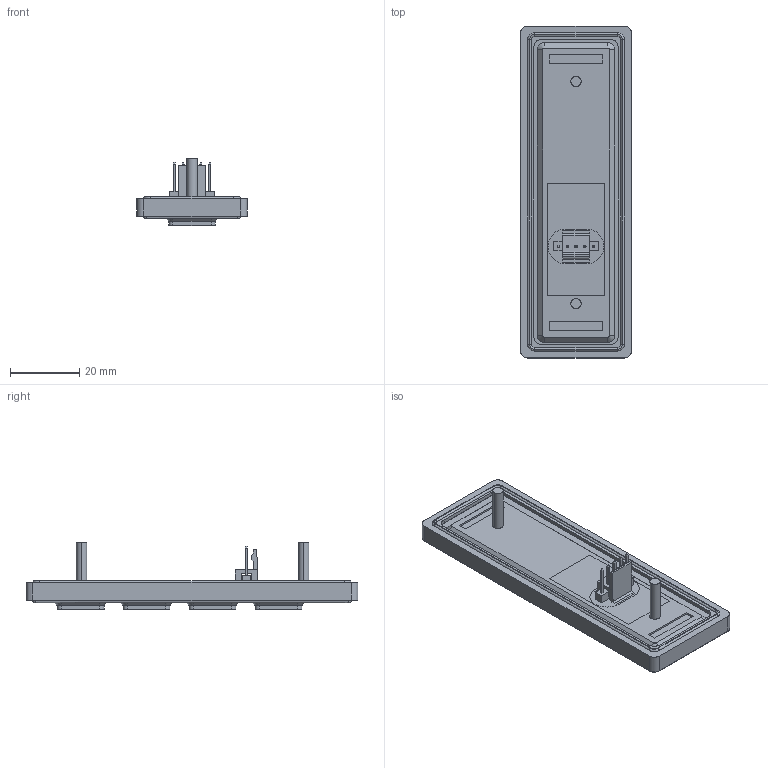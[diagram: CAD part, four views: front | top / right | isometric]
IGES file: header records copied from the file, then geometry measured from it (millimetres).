
Start section: SolidWorks IGES file using analytic representation for surfaces
Global section: file name: C:\Users\anthonyc\Desktop\070-04-ASSY~1.IGS; native system: SolidWorks 2017; preprocessor: SolidWorks 2017; author: anthonyc; date: 180305.154819; units: millimetre
Bounding box: 31.87 x 95.62 x 19.5 mm (x, y, z)
Surface area: 10097.4 mm2 (no closed solid volume)
Topology: 0 solids, 0 shells, 395 faces, 2642 edges, 2642 vertices
Faces by surface type: bspline 248, revolution 147
